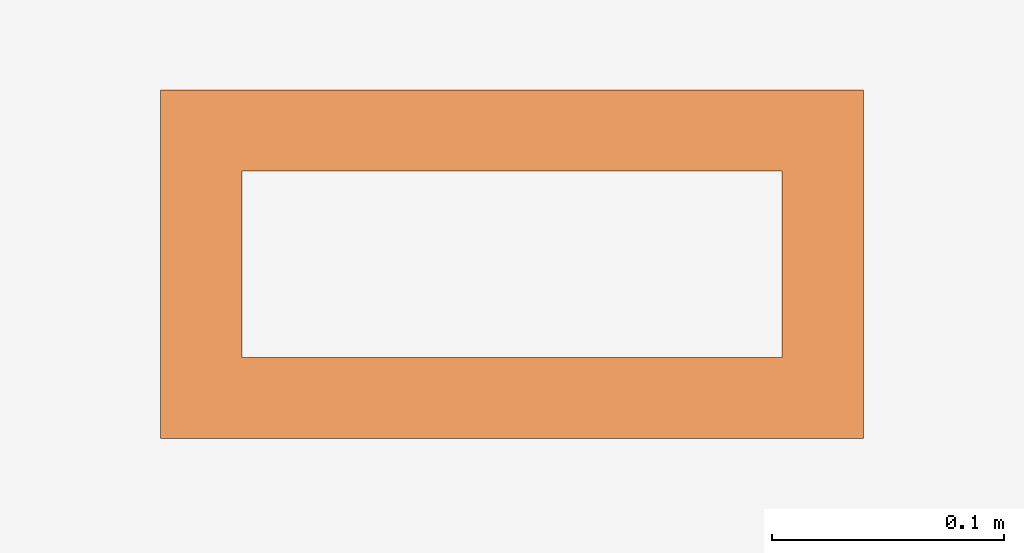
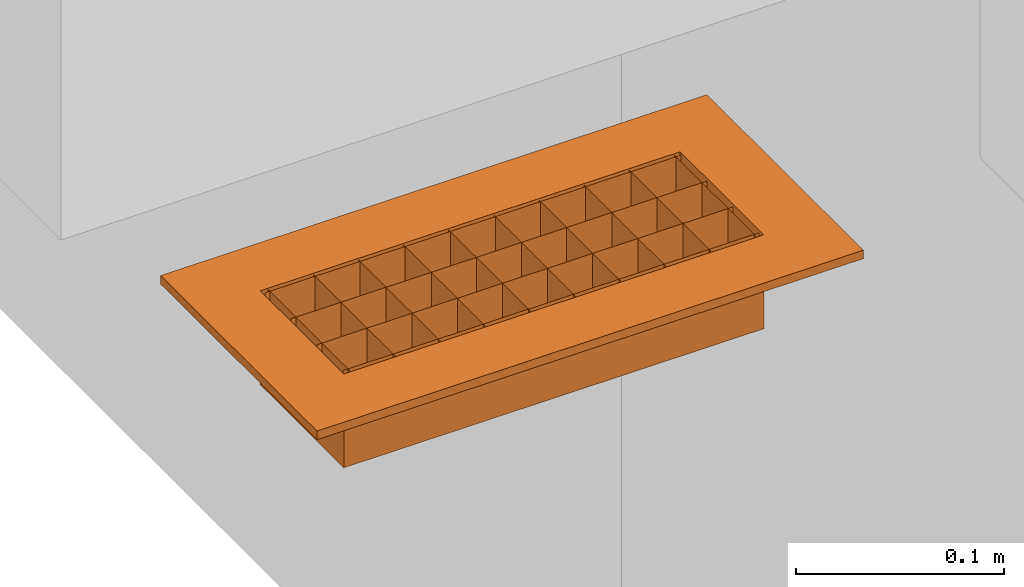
# One storey, part 77 of 77: 1 proxy.
"""IFC2X3 building model written with IfcOpenShell, lengths in inches."""

from ifc_helpers import new_model, entity, si_unit, converted_unit, derived_unit, money_unit, direction, frame, origin_with_axes, place, context, subcontext, project, spatial, open_shell, faceted_brep, surface_model, type_object, element, save


model = new_model("IFC2X3")

# Units and contexts
model_context = context("Model", 3, precision=0.000393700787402, world=origin_with_axes(), true_north=direction((0.0, 1.0)))
body_context = subcontext(model_context, "Body", "Model", "MODEL_VIEW")
ifc_project = project(units=[converted_unit("LENGTHUNIT", "INCH", entity("IfcPositiveLengthMeasure", 0.0254), si_unit("LENGTHUNIT", "METRE"), dimensions=[1, 0, 0, 0, 0, 0, 0]), converted_unit("AREAUNIT", "SQUARE_FOOT", entity("IfcPositiveLengthMeasure", 0.09290304), si_unit("AREAUNIT", "SQUARE_METRE"), dimensions=[2, 0, 0, 0, 0, 0, 0]), si_unit("PLANEANGLEUNIT", "RADIAN"), si_unit("SOLIDANGLEUNIT", "STERADIAN"), money_unit("USD"), converted_unit("TIMEUNIT", "Year", entity("IfcTimeMeasure", 31556926.0), si_unit("TIMEUNIT", "SECOND"), dimensions=[0, 0, 1, 0, 0, 0, 0]), si_unit("MASSUNIT", "GRAM", prefix="KILO"), si_unit("THERMODYNAMICTEMPERATUREUNIT", "DEGREE_CELSIUS"), si_unit("LUMINOUSINTENSITYUNIT", "LUMEN"), si_unit("ENERGYUNIT", "JOULE", prefix="MEGA"), derived_unit("THERMALCONDUCTANCEUNIT", [(si_unit("POWERUNIT", "WATT"), 1), (si_unit("LENGTHUNIT", "METRE"), -1), (si_unit("THERMODYNAMICTEMPERATUREUNIT", "KELVIN"), -1)]), derived_unit("SPECIFICHEATCAPACITYUNIT", [(si_unit("ENERGYUNIT", "JOULE"), 1), (si_unit("MASSUNIT", "GRAM", prefix="KILO"), -1), (si_unit("THERMODYNAMICTEMPERATUREUNIT", "KELVIN"), -1)]), derived_unit("MASSDENSITYUNIT", [(si_unit("MASSUNIT", "GRAM", prefix="KILO"), 1), (si_unit("VOLUMEUNIT", "CUBIC_METRE"), -1)])], contexts=[model_context])

# Site, building, storey
site_placement = place(None, origin_with_axes())
site = spatial("IfcSite", under=ifc_project, at=site_placement, Name="Site", CompositionType="ELEMENT")
building_placement = place(site_placement, origin_with_axes())
building = spatial("IfcBuilding", under=site, at=building_placement, Name="Building", CompositionType="ELEMENT")
storey_placement = place(building_placement, frame((0.0, 0.0, 127.952755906), z_axis=(0.0, 0.0, 1.0), x_axis=(1.0, 0.0, 0.0)))
storey = spatial("IfcBuildingStorey", under=building, at=storey_placement, Name="Second Floor", CompositionType="ELEMENT", Elevation=127.953)

# Proxy
building_element_proxy_type = type_object("IfcBuildingElementProxyType", Name="Rect Floor Register 25", PredefinedType="NOTDEFINED")
proxy_placement = place(storey_placement, frame((893.945423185, 200.481729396, 0.0), z_axis=(0.0, 0.0, 1.0), x_axis=(1.0, 0.0, 0.0)))
element("IfcBuildingElementProxy", 1, at=proxy_placement, inside=storey, type_object=building_element_proxy_type, Name="FU - 027", context=body_context, shape_type="SurfaceModel", body=[
    faceted_brep([(5.95669291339, 2.95669291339, 0.0), (-5.95669291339, 2.95669291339, 0.0), (-5.95669291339, 2.95669291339, 0.196850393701), (5.95669291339, 2.95669291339, 0.196850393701), (5.95669291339, -2.95669291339, 0.0), (-5.95669291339, -2.95669291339, 0.0), (4.57874015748, 1.57874015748, 0.0), (-4.57874015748, 1.57874015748, 0.0), (-4.57874015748, -1.57874015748, 0.0), (4.57874015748, -1.57874015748, 0.0), (-5.95669291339, -2.95669291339, 0.196850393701), (5.95669291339, -2.95669291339, 0.196850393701), (4.57874015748, 1.57874015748, 0.196850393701), (4.57874015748, -1.57874015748, 0.196850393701), (-4.57874015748, -1.57874015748, 0.196850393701), (-4.57874015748, 1.57874015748, 0.196850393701)], [[[0, 1, 2, 3]], [[0, 4, 5, 1], [6, 7, 8, 9]], [[1, 5, 10, 2]], [[3, 2, 10, 11], [12, 13, 14, 15]], [[4, 0, 3, 11]], [[5, 4, 11, 10]], [[7, 6, 12, 15]], [[8, 7, 15, 14]], [[9, 8, 14, 13]], [[6, 9, 13, 12]]]),
    surface_model("IfcShellBasedSurfaceModel", [(-4.53937007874, 1.47637795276, -0.787401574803), (4.53937007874, 1.47637795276, -0.787401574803), (4.53937007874, 1.47637795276, 0.196850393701), (-4.53937007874, 1.47637795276, 0.196850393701)], [open_shell([[[0, 1, 2, 3]]])]),
    surface_model("IfcShellBasedSurfaceModel", [(-4.53937007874, 0.492125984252, -0.787401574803), (4.53937007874, 0.492125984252, -0.787401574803), (4.53937007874, 0.492125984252, 0.196850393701), (-4.53937007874, 0.492125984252, 0.196850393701)], [open_shell([[[0, 1, 2, 3]]])]),
    surface_model("IfcShellBasedSurfaceModel", [(-4.53937007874, -0.492125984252, -0.787401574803), (4.53937007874, -0.492125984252, -0.787401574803), (4.53937007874, -0.492125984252, 0.196850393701), (-4.53937007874, -0.492125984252, 0.196850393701)], [open_shell([[[0, 1, 2, 3]]])]),
    surface_model("IfcShellBasedSurfaceModel", [(-4.53937007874, -1.47637795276, -0.787401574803), (4.53937007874, -1.47637795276, -0.787401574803), (4.53937007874, -1.47637795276, 0.196850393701), (-4.53937007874, -1.47637795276, 0.196850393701)], [open_shell([[[0, 1, 2, 3]]])]),
    surface_model("IfcShellBasedSurfaceModel", [(4.42913385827, -1.53937007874, -0.787401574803), (4.42913385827, 1.53937007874, -0.787401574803), (4.42913385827, 1.53937007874, 0.196850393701), (4.42913385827, -1.53937007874, 0.196850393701)], [open_shell([[[0, 1, 2, 3]]])]),
    surface_model("IfcShellBasedSurfaceModel", [(3.44488188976, -1.53937007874, -0.787401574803), (3.44488188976, 1.53937007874, -0.787401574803), (3.44488188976, 1.53937007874, 0.196850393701), (3.44488188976, -1.53937007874, 0.196850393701)], [open_shell([[[0, 1, 2, 3]]])]),
    surface_model("IfcShellBasedSurfaceModel", [(2.46062992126, -1.53937007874, -0.787401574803), (2.46062992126, 1.53937007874, -0.787401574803), (2.46062992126, 1.53937007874, 0.196850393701), (2.46062992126, -1.53937007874, 0.196850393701)], [open_shell([[[0, 1, 2, 3]]])]),
    surface_model("IfcShellBasedSurfaceModel", [(1.47637795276, -1.53937007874, -0.787401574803), (1.47637795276, 1.53937007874, -0.787401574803), (1.47637795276, 1.53937007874, 0.196850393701), (1.47637795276, -1.53937007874, 0.196850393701)], [open_shell([[[0, 1, 2, 3]]])]),
    surface_model("IfcShellBasedSurfaceModel", [(0.492125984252, -1.53937007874, -0.787401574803), (0.492125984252, 1.53937007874, -0.787401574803), (0.492125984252, 1.53937007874, 0.196850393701), (0.492125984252, -1.53937007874, 0.196850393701)], [open_shell([[[0, 1, 2, 3]]])]),
    surface_model("IfcShellBasedSurfaceModel", [(-0.492125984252, -1.53937007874, -0.787401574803), (-0.492125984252, 1.53937007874, -0.787401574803), (-0.492125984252, 1.53937007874, 0.196850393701), (-0.492125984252, -1.53937007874, 0.196850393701)], [open_shell([[[0, 1, 2, 3]]])]),
    surface_model("IfcShellBasedSurfaceModel", [(-1.47637795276, -1.53937007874, -0.787401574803), (-1.47637795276, 1.53937007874, -0.787401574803), (-1.47637795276, 1.53937007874, 0.196850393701), (-1.47637795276, -1.53937007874, 0.196850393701)], [open_shell([[[0, 1, 2, 3]]])]),
    surface_model("IfcShellBasedSurfaceModel", [(-2.46062992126, -1.53937007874, -0.787401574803), (-2.46062992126, 1.53937007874, -0.787401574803), (-2.46062992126, 1.53937007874, 0.196850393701), (-2.46062992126, -1.53937007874, 0.196850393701)], [open_shell([[[0, 1, 2, 3]]])]),
    surface_model("IfcShellBasedSurfaceModel", [(-3.44488188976, -1.53937007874, -0.787401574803), (-3.44488188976, 1.53937007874, -0.787401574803), (-3.44488188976, 1.53937007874, 0.196850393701), (-3.44488188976, -1.53937007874, 0.196850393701)], [open_shell([[[0, 1, 2, 3]]])]),
    surface_model("IfcShellBasedSurfaceModel", [(-4.42913385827, -1.53937007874, -0.787401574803), (-4.42913385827, 1.53937007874, -0.787401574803), (-4.42913385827, 1.53937007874, 0.196850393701), (-4.42913385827, -1.53937007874, 0.196850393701)], [open_shell([[[0, 1, 2, 3]]])]),
    surface_model("IfcShellBasedSurfaceModel", [(-4.57874015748, -1.57874015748, 0.0), (-4.57874015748, 1.57874015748, 0.0), (-4.57874015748, 1.57874015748, -1.96850393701), (-4.57874015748, -1.57874015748, -1.96850393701), (4.57874015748, 1.57874015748, 0.0), (4.57874015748, 1.57874015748, -1.96850393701), (4.57874015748, -1.57874015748, 0.0), (4.57874015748, -1.57874015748, -1.96850393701)], [open_shell([[[0, 1, 2, 3]], [[1, 4, 5, 2]], [[6, 0, 3, 7]], [[4, 6, 7, 5]]])]),
])

save(model, "model.ifc")
